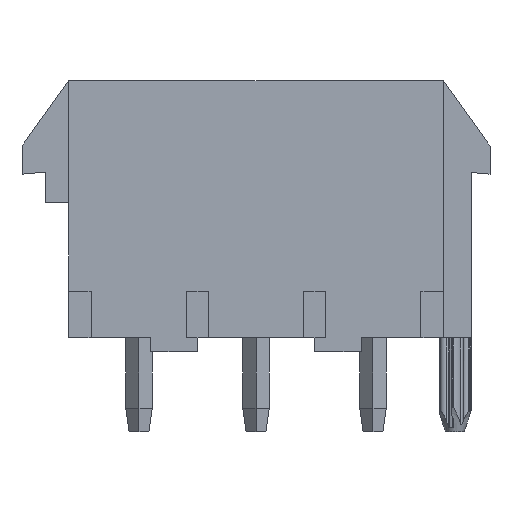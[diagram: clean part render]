
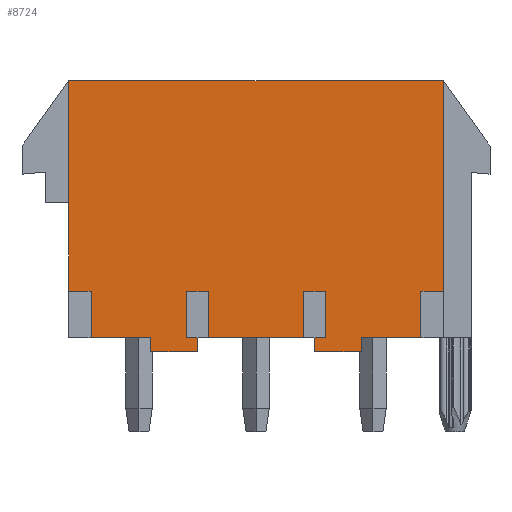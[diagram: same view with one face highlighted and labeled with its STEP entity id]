
A CAD part, left-side view. The second image highlights one B-rep face of the part: STEP entity #8724.
In plain terms, the highlighted planar face has unit normal (-1, 0, 0).
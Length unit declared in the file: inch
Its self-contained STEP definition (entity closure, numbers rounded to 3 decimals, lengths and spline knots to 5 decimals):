
#440=DIRECTION('',(0.,-1.,0.));
#441=VECTOR('',#440,0.1275);
#442=CARTESIAN_POINT('',(-0.4,0.3525,-0.275));
#443=LINE('',#442,#441);
#456=DIRECTION('',(0.,1.,0.));
#457=VECTOR('',#456,0.0225);
#458=CARTESIAN_POINT('',(-0.4,0.125,-0.275));
#459=LINE('',#458,#457);
#472=DIRECTION('',(0.,1.,0.));
#473=VECTOR('',#472,0.205);
#474=CARTESIAN_POINT('',(-0.4,-0.1025,-0.275));
#475=LINE('',#474,#473);
#488=DIRECTION('',(0.,1.,0.));
#489=VECTOR('',#488,0.0225);
#490=CARTESIAN_POINT('',(-0.4,-0.1475,-0.275));
#491=LINE('',#490,#489);
#504=DIRECTION('',(0.,1.,0.));
#505=VECTOR('',#504,0.1275);
#506=CARTESIAN_POINT('',(-0.4,-0.3525,-0.275));
#507=LINE('',#506,#505);
#1873=DIRECTION('',(0.,-1.,0.));
#1874=VECTOR('',#1873,0.8);
#1875=CARTESIAN_POINT('',(-0.4,0.4,0.275));
#1876=LINE('',#1875,#1874);
#2895=DIRECTION('',(0.,0.,1.));
#2896=VECTOR('',#2895,0.45);
#2897=CARTESIAN_POINT('',(-0.4,-0.4,-0.175));
#2898=LINE('',#2897,#2896);
#2935=DIRECTION('',(0.,0.,-1.));
#2936=VECTOR('',#2935,0.1);
#2937=CARTESIAN_POINT('',(-0.4,0.1475,-0.175));
#2938=LINE('',#2937,#2936);
#2939=DIRECTION('',(0.,0.,-1.));
#2940=VECTOR('',#2939,0.03);
#2941=CARTESIAN_POINT('',(-0.4,0.125,-0.275));
#2942=LINE('',#2941,#2940);
#2943=DIRECTION('',(0.,-1.,0.));
#2944=VECTOR('',#2943,0.0475);
#2945=CARTESIAN_POINT('',(-0.4,0.4,-0.175));
#2946=LINE('',#2945,#2944);
#2947=DIRECTION('',(0.,0.,1.));
#2948=VECTOR('',#2947,0.45);
#2949=CARTESIAN_POINT('',(-0.4,0.4,-0.175));
#2950=LINE('',#2949,#2948);
#2951=DIRECTION('',(0.,-1.,0.));
#2952=VECTOR('',#2951,0.0475);
#2953=CARTESIAN_POINT('',(-0.4,-0.3525,-0.175));
#2954=LINE('',#2953,#2952);
#2955=DIRECTION('',(0.,0.,-1.));
#2956=VECTOR('',#2955,0.1);
#2957=CARTESIAN_POINT('',(-0.4,-0.3525,-0.175));
#2958=LINE('',#2957,#2956);
#2959=DIRECTION('',(0.,0.,-1.));
#2960=VECTOR('',#2959,0.03);
#2961=CARTESIAN_POINT('',(-0.4,-0.225,-0.275));
#2962=LINE('',#2961,#2960);
#2963=DIRECTION('',(0.,-1.,0.));
#2964=VECTOR('',#2963,0.045);
#2965=CARTESIAN_POINT('',(-0.4,-0.1025,-0.175));
#2966=LINE('',#2965,#2964);
#2967=DIRECTION('',(0.,0.,-1.));
#2968=VECTOR('',#2967,0.1);
#2969=CARTESIAN_POINT('',(-0.4,-0.1025,-0.175));
#2970=LINE('',#2969,#2968);
#2971=DIRECTION('',(0.,-1.,0.));
#2972=VECTOR('',#2971,0.045);
#2973=CARTESIAN_POINT('',(-0.4,0.1475,-0.175));
#2974=LINE('',#2973,#2972);
#3175=DIRECTION('',(0.,1.,0.));
#3176=VECTOR('',#3175,0.1);
#3177=CARTESIAN_POINT('',(-0.4,-0.225,-0.305));
#3178=LINE('',#3177,#3176);
#3211=DIRECTION('',(0.,1.,0.));
#3212=VECTOR('',#3211,0.1);
#3213=CARTESIAN_POINT('',(-0.4,0.125,-0.305));
#3214=LINE('',#3213,#3212);
#3243=DIRECTION('',(0.,0.,-1.));
#3244=VECTOR('',#3243,0.03);
#3245=CARTESIAN_POINT('',(-0.4,-0.125,-0.275));
#3246=LINE('',#3245,#3244);
#3247=DIRECTION('',(0.,0.,-1.));
#3248=VECTOR('',#3247,0.03);
#3249=CARTESIAN_POINT('',(-0.4,0.225,-0.275));
#3250=LINE('',#3249,#3248);
#3263=DIRECTION('',(0.,0.,-1.));
#3264=VECTOR('',#3263,0.1);
#3265=CARTESIAN_POINT('',(-0.4,-0.1475,-0.175));
#3266=LINE('',#3265,#3264);
#3267=DIRECTION('',(0.,0.,-1.));
#3268=VECTOR('',#3267,0.1);
#3269=CARTESIAN_POINT('',(-0.4,0.1025,-0.175));
#3270=LINE('',#3269,#3268);
#3271=DIRECTION('',(0.,0.,-1.));
#3272=VECTOR('',#3271,0.1);
#3273=CARTESIAN_POINT('',(-0.4,0.3525,-0.175));
#3274=LINE('',#3273,#3272);
#3339=CARTESIAN_POINT('',(-0.4,0.4,0.275));
#3340=CARTESIAN_POINT('',(-0.4,-0.4,0.275));
#3341=VERTEX_POINT('',#3339);
#3342=VERTEX_POINT('',#3340);
#3347=CARTESIAN_POINT('',(-0.4,-0.4,-0.175));
#3348=VERTEX_POINT('',#3347);
#3407=CARTESIAN_POINT('',(-0.4,-0.225,-0.305));
#3408=CARTESIAN_POINT('',(-0.4,-0.125,-0.305));
#3409=VERTEX_POINT('',#3407);
#3410=VERTEX_POINT('',#3408);
#3423=CARTESIAN_POINT('',(-0.4,-0.1475,-0.275));
#3424=CARTESIAN_POINT('',(-0.4,-0.125,-0.275));
#3425=VERTEX_POINT('',#3423);
#3426=VERTEX_POINT('',#3424);
#3433=CARTESIAN_POINT('',(-0.4,-0.225,-0.275));
#3434=VERTEX_POINT('',#3433);
#3507=CARTESIAN_POINT('',(-0.4,0.4,-0.175));
#3508=VERTEX_POINT('',#3507);
#3552=CARTESIAN_POINT('',(-0.4,-0.3525,-0.275));
#3554=VERTEX_POINT('',#3552);
#3564=CARTESIAN_POINT('',(-0.4,-0.1475,-0.175));
#3566=VERTEX_POINT('',#3564);
#3568=CARTESIAN_POINT('',(-0.4,-0.3525,-0.175));
#3570=VERTEX_POINT('',#3568);
#3619=CARTESIAN_POINT('',(-0.4,0.225,-0.305));
#3621=VERTEX_POINT('',#3619);
#3625=CARTESIAN_POINT('',(-0.4,0.125,-0.305));
#3626=VERTEX_POINT('',#3625);
#3635=CARTESIAN_POINT('',(-0.4,0.225,-0.275));
#3637=VERTEX_POINT('',#3635);
#3641=CARTESIAN_POINT('',(-0.4,0.125,-0.275));
#3642=VERTEX_POINT('',#3641);
#4179=CARTESIAN_POINT('',(-0.4,0.1475,-0.275));
#4180=VERTEX_POINT('',#4179);
#4189=CARTESIAN_POINT('',(-0.4,-0.1025,-0.275));
#4190=CARTESIAN_POINT('',(-0.4,0.1025,-0.275));
#4191=VERTEX_POINT('',#4189);
#4192=VERTEX_POINT('',#4190);
#4206=CARTESIAN_POINT('',(-0.4,0.1025,-0.175));
#4208=VERTEX_POINT('',#4206);
#4210=CARTESIAN_POINT('',(-0.4,-0.1025,-0.175));
#4212=VERTEX_POINT('',#4210);
#4218=CARTESIAN_POINT('',(-0.4,0.1475,-0.175));
#4220=VERTEX_POINT('',#4218);
#4229=CARTESIAN_POINT('',(-0.4,0.3525,-0.175));
#4230=VERTEX_POINT('',#4229);
#4234=CARTESIAN_POINT('',(-0.4,0.3525,-0.275));
#4236=VERTEX_POINT('',#4234);
#8678=CARTESIAN_POINT('',(-0.4,0.4,-0.275));
#8679=DIRECTION('',(-1.,0.,0.));
#8680=DIRECTION('',(0.,-1.,0.));
#8681=AXIS2_PLACEMENT_3D('',#8678,#8679,#8680);
#8682=PLANE('',#8681);
#8684=ORIENTED_EDGE('',*,*,#8683,.T.);
#8685=ORIENTED_EDGE('',*,*,#4390,.F.);
#8687=ORIENTED_EDGE('',*,*,#8686,.T.);
#8689=ORIENTED_EDGE('',*,*,#8688,.T.);
#8691=ORIENTED_EDGE('',*,*,#8690,.F.);
#8692=ORIENTED_EDGE('',*,*,#4382,.F.);
#8694=ORIENTED_EDGE('',*,*,#8693,.F.);
#8696=ORIENTED_EDGE('',*,*,#8695,.F.);
#8697=ORIENTED_EDGE('',*,*,#6385,.T.);
#8698=ORIENTED_EDGE('',*,*,#6414,.T.);
#8699=ORIENTED_EDGE('',*,*,#8582,.F.);
#8701=ORIENTED_EDGE('',*,*,#8700,.F.);
#8702=ORIENTED_EDGE('',*,*,#8670,.T.);
#8703=ORIENTED_EDGE('',*,*,#4414,.T.);
#8705=ORIENTED_EDGE('',*,*,#8704,.T.);
#8707=ORIENTED_EDGE('',*,*,#8706,.T.);
#8709=ORIENTED_EDGE('',*,*,#8708,.F.);
#8710=ORIENTED_EDGE('',*,*,#4406,.F.);
#8712=ORIENTED_EDGE('',*,*,#8711,.F.);
#8714=ORIENTED_EDGE('',*,*,#8713,.F.);
#8716=ORIENTED_EDGE('',*,*,#8715,.T.);
#8717=ORIENTED_EDGE('',*,*,#4398,.T.);
#8719=ORIENTED_EDGE('',*,*,#8718,.F.);
#8721=ORIENTED_EDGE('',*,*,#8720,.F.);
#8722=EDGE_LOOP('',(#8684,#8685,#8687,#8689,#8691,#8692,#8694,#8696,#8697,#8698,
#8699,#8701,#8702,#8703,#8705,#8707,#8709,#8710,#8712,#8714,#8716,#8717,#8719,
#8721));
#8723=FACE_OUTER_BOUND('',#8722,.F.);
#8724=ADVANCED_FACE('',(#8723),#8682,.T.);
#4382=EDGE_CURVE('',#4236,#3637,#443,.T.);
#4390=EDGE_CURVE('',#3642,#4180,#459,.T.);
#4398=EDGE_CURVE('',#4191,#4192,#475,.T.);
#4406=EDGE_CURVE('',#3425,#3426,#491,.T.);
#4414=EDGE_CURVE('',#3554,#3434,#507,.T.);
#6385=EDGE_CURVE('',#3508,#3341,#2950,.T.);
#6414=EDGE_CURVE('',#3341,#3342,#1876,.T.);
#8582=EDGE_CURVE('',#3348,#3342,#2898,.T.);
#8670=EDGE_CURVE('',#3570,#3554,#2958,.T.);
#8683=EDGE_CURVE('',#4220,#4180,#2938,.T.);
#8686=EDGE_CURVE('',#3642,#3626,#2942,.T.);
#8688=EDGE_CURVE('',#3626,#3621,#3214,.T.);
#8690=EDGE_CURVE('',#3637,#3621,#3250,.T.);
#8693=EDGE_CURVE('',#4230,#4236,#3274,.T.);
#8695=EDGE_CURVE('',#3508,#4230,#2946,.T.);
#8700=EDGE_CURVE('',#3570,#3348,#2954,.T.);
#8704=EDGE_CURVE('',#3434,#3409,#2962,.T.);
#8706=EDGE_CURVE('',#3409,#3410,#3178,.T.);
#8708=EDGE_CURVE('',#3426,#3410,#3246,.T.);
#8711=EDGE_CURVE('',#3566,#3425,#3266,.T.);
#8713=EDGE_CURVE('',#4212,#3566,#2966,.T.);
#8715=EDGE_CURVE('',#4212,#4191,#2970,.T.);
#8718=EDGE_CURVE('',#4208,#4192,#3270,.T.);
#8720=EDGE_CURVE('',#4220,#4208,#2974,.T.);
